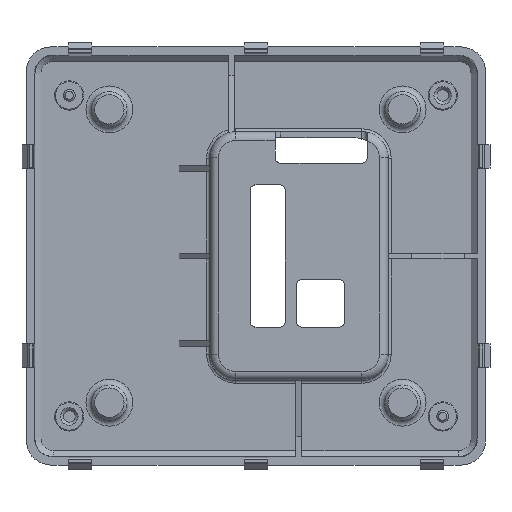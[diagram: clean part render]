
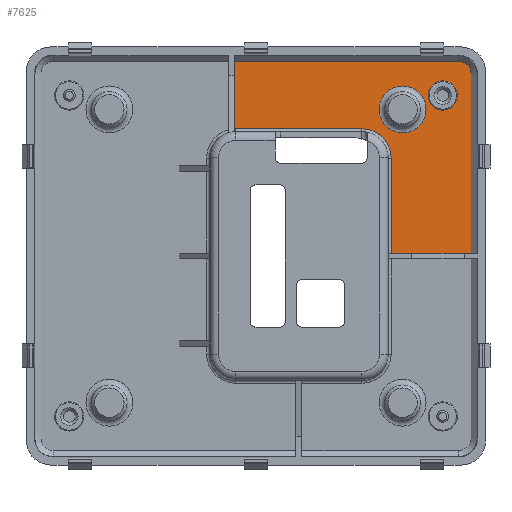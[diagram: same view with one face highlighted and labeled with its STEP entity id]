
A CAD part, top view. The second image highlights one B-rep face of the part: STEP entity #7625.
In plain terms, the highlighted planar face has unit normal (0, 0, 1).
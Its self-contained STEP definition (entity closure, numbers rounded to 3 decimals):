
#75=ELLIPSE('',#8156,2.113,2.112);
#257=FACE_BOUND('',#1133,.T.);
#258=FACE_BOUND('',#1134,.T.);
#370=CIRCLE('',#8157,5.);
#371=CIRCLE('',#8158,5.);
#372=CIRCLE('',#8159,4.02);
#373=CIRCLE('',#8160,4.02);
#374=CIRCLE('',#8161,2.5);
#375=CIRCLE('',#8162,2.5);
#685=FACE_OUTER_BOUND('',#1132,.T.);
#1132=EDGE_LOOP('',(#5992,#5993,#5994,#5995,#5996,#5997,#5998,#5999,#6000));
#1133=EDGE_LOOP('',(#6001,#6002));
#1134=EDGE_LOOP('',(#6003,#6004));
#1776=LINE('',#12156,#2610);
#1782=LINE('',#12182,#2616);
#1783=LINE('',#12184,#2617);
#1784=LINE('',#12188,#2618);
#1785=LINE('',#12190,#2619);
#1786=LINE('',#12194,#2620);
#2610=VECTOR('',#9454,10.);
#2616=VECTOR('',#9478,10.);
#2617=VECTOR('',#9479,1.);
#2618=VECTOR('',#9482,1.);
#2619=VECTOR('',#9483,1.);
#2620=VECTOR('',#9486,10.);
#3441=VERTEX_POINT('',#12153);
#3442=VERTEX_POINT('',#12155);
#3453=VERTEX_POINT('',#12181);
#3454=VERTEX_POINT('',#12183);
#3455=VERTEX_POINT('',#12185);
#3456=VERTEX_POINT('',#12187);
#3457=VERTEX_POINT('',#12189);
#3458=VERTEX_POINT('',#12191);
#3459=VERTEX_POINT('',#12193);
#3460=VERTEX_POINT('',#12196);
#3461=VERTEX_POINT('',#12197);
#3462=VERTEX_POINT('',#12200);
#3463=VERTEX_POINT('',#12201);
#4357=EDGE_CURVE('',#3441,#3442,#1776,.T.);
#4370=EDGE_CURVE('',#3441,#3453,#1782,.T.);
#4371=EDGE_CURVE('',#3453,#3454,#1783,.T.);
#4372=EDGE_CURVE('',#3454,#3455,#75,.T.);
#4373=EDGE_CURVE('',#3455,#3456,#1784,.T.);
#4374=EDGE_CURVE('',#3457,#3456,#1785,.T.);
#4375=EDGE_CURVE('',#3458,#3457,#370,.T.);
#4376=EDGE_CURVE('',#3459,#3458,#1786,.T.);
#4377=EDGE_CURVE('',#3442,#3459,#371,.T.);
#4378=EDGE_CURVE('',#3460,#3461,#372,.T.);
#4379=EDGE_CURVE('',#3461,#3460,#373,.T.);
#4380=EDGE_CURVE('',#3462,#3463,#374,.T.);
#4381=EDGE_CURVE('',#3463,#3462,#375,.T.);
#5992=ORIENTED_EDGE('',*,*,#4370,.T.);
#5993=ORIENTED_EDGE('',*,*,#4371,.T.);
#5994=ORIENTED_EDGE('',*,*,#4372,.T.);
#5995=ORIENTED_EDGE('',*,*,#4373,.T.);
#5996=ORIENTED_EDGE('',*,*,#4374,.F.);
#5997=ORIENTED_EDGE('',*,*,#4375,.F.);
#5998=ORIENTED_EDGE('',*,*,#4376,.F.);
#5999=ORIENTED_EDGE('',*,*,#4377,.F.);
#6000=ORIENTED_EDGE('',*,*,#4357,.F.);
#6001=ORIENTED_EDGE('',*,*,#4378,.T.);
#6002=ORIENTED_EDGE('',*,*,#4379,.T.);
#6003=ORIENTED_EDGE('',*,*,#4380,.T.);
#6004=ORIENTED_EDGE('',*,*,#4381,.T.);
#7282=PLANE('',#8155);
#7625=ADVANCED_FACE('',(#685,#257,#258),#7282,.T.);
#8155=AXIS2_PLACEMENT_3D('',#12180,#9476,#9477);
#8156=AXIS2_PLACEMENT_3D('',#12186,#9480,#9481);
#8157=AXIS2_PLACEMENT_3D('',#12192,#9484,#9485);
#8158=AXIS2_PLACEMENT_3D('',#12195,#9487,#9488);
#8159=AXIS2_PLACEMENT_3D('',#12198,#9489,#9490);
#8160=AXIS2_PLACEMENT_3D('',#12199,#9491,#9492);
#8161=AXIS2_PLACEMENT_3D('',#12202,#9493,#9494);
#8162=AXIS2_PLACEMENT_3D('',#12203,#9495,#9496);
#9454=DIRECTION('',(0.,1.,0.));
#9476=DIRECTION('center_axis',(0.,0.,1.));
#9477=DIRECTION('ref_axis',(0.,1.,0.));
#9478=DIRECTION('',(1.,0.,0.));
#9479=DIRECTION('',(0.,1.,0.));
#9480=DIRECTION('center_axis',(0.,0.,1.));
#9481=DIRECTION('ref_axis',(-0.707,-0.707,0.));
#9482=DIRECTION('',(-1.,0.,0.));
#9483=DIRECTION('',(0.,1.,0.));
#9484=DIRECTION('center_axis',(0.,0.,1.));
#9485=DIRECTION('ref_axis',(-0.028,1.,0.));
#9486=DIRECTION('',(-1.,0.,0.));
#9487=DIRECTION('center_axis',(0.,0.,1.));
#9488=DIRECTION('ref_axis',(0.707,0.707,0.));
#9489=DIRECTION('center_axis',(0.,0.,-1.));
#9490=DIRECTION('ref_axis',(0.,1.,0.));
#9491=DIRECTION('center_axis',(0.,0.,-1.));
#9492=DIRECTION('ref_axis',(0.,1.,0.));
#9493=DIRECTION('center_axis',(0.,0.,-1.));
#9494=DIRECTION('ref_axis',(1.,0.,0.));
#9495=DIRECTION('center_axis',(0.,0.,-1.));
#9496=DIRECTION('ref_axis',(1.,0.,0.));
#12153=CARTESIAN_POINT('',(23.165,-55.218,1.508));
#12155=CARTESIAN_POINT('',(23.165,-38.919,1.508));
#12156=CARTESIAN_POINT('',(23.165,-50.668,1.508));
#12180=CARTESIAN_POINT('Origin',(34.926,-24.314,1.508));
#12181=CARTESIAN_POINT('',(36.855,-55.218,1.508));
#12182=CARTESIAN_POINT('',(20.838,-55.218,1.508));
#12183=CARTESIAN_POINT('',(36.858,-24.478,1.507));
#12184=CARTESIAN_POINT('',(36.855,-24.513,1.508));
#12185=CARTESIAN_POINT('',(34.762,-22.384,1.509));
#12186=CARTESIAN_POINT('Origin',(34.747,-24.493,1.508));
#12187=CARTESIAN_POINT('',(-3.696,-22.385,1.508));
#12188=CARTESIAN_POINT('',(-3.696,-22.385,1.508));
#12189=CARTESIAN_POINT('',(-3.696,-33.925,1.508));
#12190=CARTESIAN_POINT('',(-3.696,-38.133,1.508));
#12191=CARTESIAN_POINT('',(-3.448,-33.919,1.508));
#12192=CARTESIAN_POINT('Origin',(-3.448,-38.919,1.508));
#12193=CARTESIAN_POINT('',(18.165,-33.919,1.508));
#12194=CARTESIAN_POINT('',(28.795,-33.919,1.508));
#12195=CARTESIAN_POINT('Origin',(18.165,-38.919,1.508));
#12196=CARTESIAN_POINT('',(25.127,-26.576,1.508));
#12197=CARTESIAN_POINT('',(25.127,-34.616,1.508));
#12198=CARTESIAN_POINT('Origin',(25.127,-30.596,1.508));
#12199=CARTESIAN_POINT('Origin',(25.127,-30.596,1.508));
#12200=CARTESIAN_POINT('',(34.502,-28.22,1.508));
#12201=CARTESIAN_POINT('',(29.502,-28.22,1.508));
#12202=CARTESIAN_POINT('Origin',(32.002,-28.22,1.508));
#12203=CARTESIAN_POINT('Origin',(32.002,-28.22,1.508));
